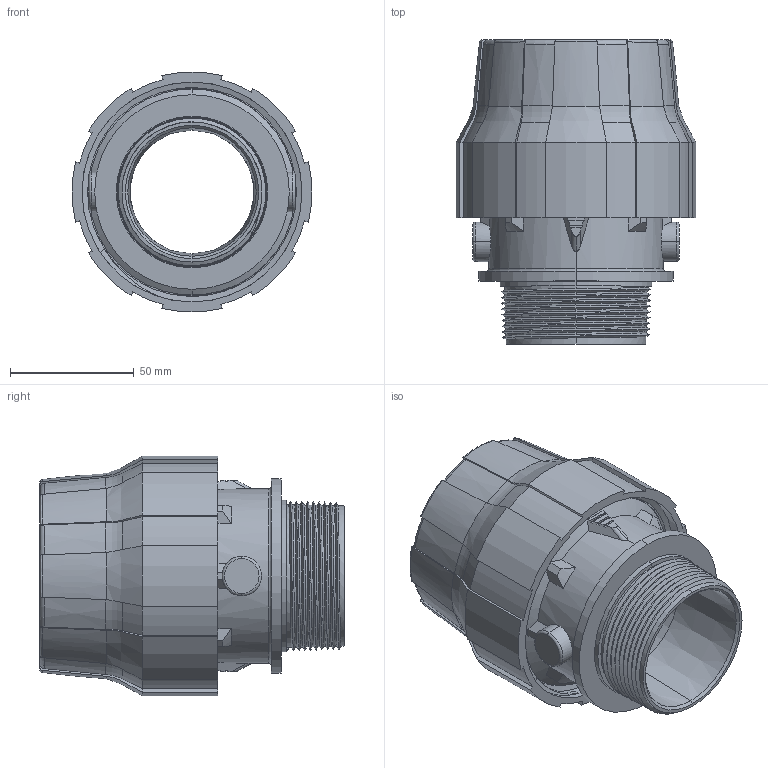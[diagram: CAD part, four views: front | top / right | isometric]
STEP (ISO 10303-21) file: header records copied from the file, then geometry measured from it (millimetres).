
FILE_DESCRIPTION (( 'STEP AP203' ), '1' );
FILE_NAME ('QLMNMAL063168.STEP', '2014-05-14T13:34:54', ( '' ), ( '' ), 'SwSTEP 2.0', 'SolidWorks 2013', '' );
FILE_SCHEMA (( 'CONFIG_CONTROL_DESIGN' ));
Length unit declared in the file: millimetre
Products named in the file (3): CCORMN063168AL ISO7; CGHQUICK063AL; QLMNMAL063168
Assembly tree (2 placements, depth 2):
  QLMNMAL063168
    CCORMN063168AL ISO7
    CGHQUICK063AL
Bounding box: 97.01 x 123.14 x 97.01 mm (x, y, z)
Volume: 175291 mm3; surface area: 95211.5 mm2
Topology: 2 solids, 2 shells, 341 faces, 930 edges, 599 vertices
Faces by surface type: plane 98, cylinder 81, bspline 76, cone 56, torus 30
Entity records: 20822 total; most frequent: CARTESIAN_POINT 12928, ORIENTED_EDGE 1860, DIRECTION 1233, EDGE_CURVE 930, VERTEX_POINT 599, AXIS2_PLACEMENT_3D 467, EDGE_LOOP 353, B_SPLINE_CURVE_WITH_KNOTS 350
